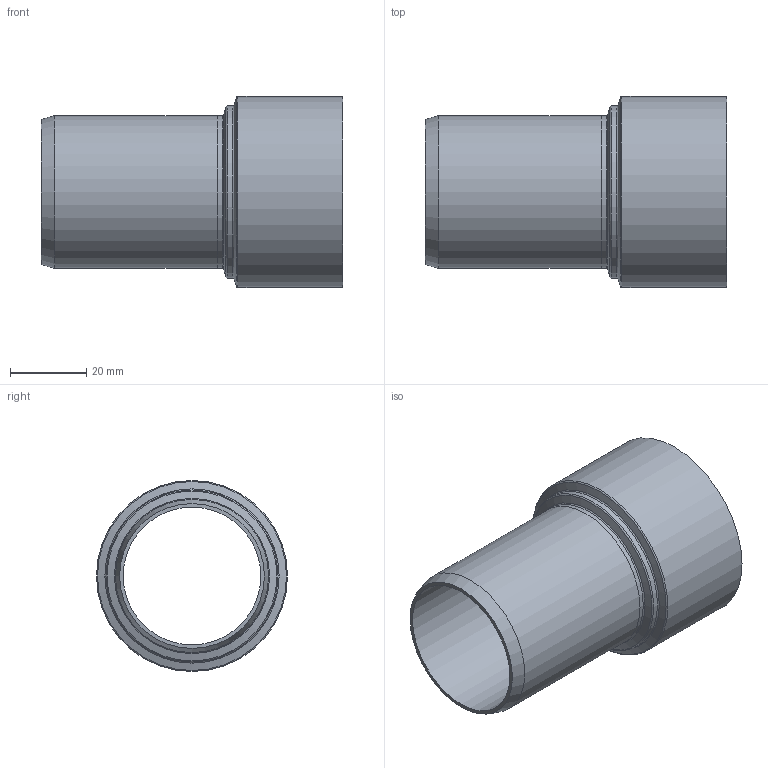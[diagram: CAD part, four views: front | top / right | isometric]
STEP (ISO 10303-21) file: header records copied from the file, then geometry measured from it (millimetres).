
FILE_DESCRIPTION(/* description */ (''),/* implementation_level */ '2;1');
FILE_NAME(/* name */ 'Z:\Geberit\Export\NewStep\390180.stp',/* time_stamp */ '2014-04-02T08:09:18+02:00',/* author */ ('ML'),/* organization */ (''),/* preprocessor_version */ 'ST-DEVELOPER v15.2',/* originating_system */ 'Autodesk Inventor 2014',/* authorisation */ '');
FILE_SCHEMA (('AUTOMOTIVE_DESIGN { 1 0 10303 214 3 1 1 }'));
Length unit declared in the file: millimetre
Products named in the file (3): 861470; 861470Muffe; 390180
Bounding box: 79.15 x 50.15 x 50.15 mm (x, y, z)
Volume: 22407.1 mm3; surface area: 22875.5 mm2
Topology: 2 solids, 2 shells, 20 faces, 36 edges, 20 vertices
Faces by surface type: cylinder 7, torus 5, cone 4, plane 4
Full cylindrical faces by diameter (mm): 36.15 x2, 40.15 x2, 45.15 x1, 46.15 x1, 50.15 x1
Entity records: 492 total; most frequent: DIRECTION 90, CARTESIAN_POINT 65, AXIS2_PLACEMENT_3D 45, EDGE_LOOP 40, ORIENTED_EDGE 40, FACE_BOUND 23, STYLED_ITEM 22, CIRCLE 20
